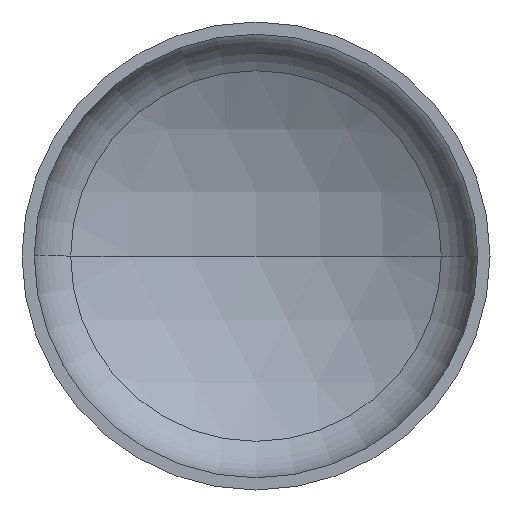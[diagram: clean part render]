
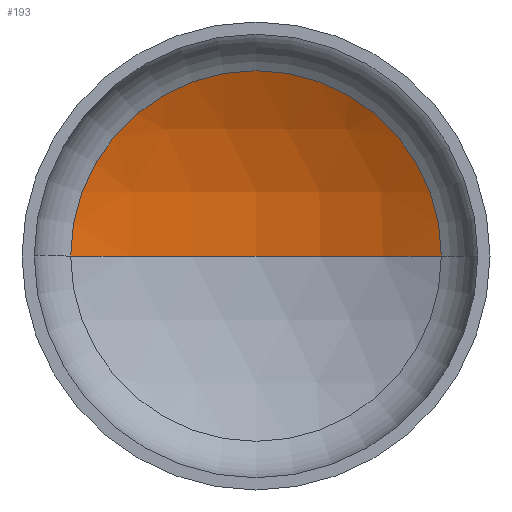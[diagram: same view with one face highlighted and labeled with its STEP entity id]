
A CAD part, front view. The second image highlights one B-rep face of the part: STEP entity #193.
In plain terms, the highlighted spherical face has radius 2880 mm.
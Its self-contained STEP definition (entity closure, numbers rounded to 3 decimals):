
#11 = EDGE_LOOP ( 'NONE', ( #115, #104, #76 ) ) ;
#21 = VERTEX_POINT ( 'NONE', #366 ) ;
#24 = DIRECTION ( 'NONE',  ( 0., -1., 0. ) ) ;
#25 = VERTEX_POINT ( 'NONE', #295 ) ;
#26 = DIRECTION ( 'NONE',  ( 0., 0., -1. ) ) ;
#28 = AXIS2_PLACEMENT_3D ( 'NONE', #93, #185, #73 ) ;
#29 = CARTESIAN_POINT ( 'NONE',  ( 0., -1920.105, 0. ) ) ;
#45 = VERTEX_POINT ( 'NONE', #237 ) ;
#56 = SPHERICAL_SURFACE ( 'NONE', #28, 2880. ) ;
#67 = AXIS2_PLACEMENT_3D ( 'NONE', #371, #387, #245 ) ;
#73 = DIRECTION ( 'NONE',  ( -1., 0., 0. ) ) ;
#74 = AXIS2_PLACEMENT_3D ( 'NONE', #29, #26, #319 ) ;
#76 = ORIENTED_EDGE ( 'NONE', *, *, #157, .T. ) ;
#81 = AXIS2_PLACEMENT_3D ( 'NONE', #324, #24, #153 ) ;
#93 = CARTESIAN_POINT ( 'NONE',  ( 0., -1920.105, 0. ) ) ;
#104 = ORIENTED_EDGE ( 'NONE', *, *, #158, .T. ) ;
#110 = CIRCLE ( 'NONE', #74, 2880. ) ;
#115 = ORIENTED_EDGE ( 'NONE', *, *, #160, .F. ) ;
#153 = DIRECTION ( 'NONE',  ( 1., 0., 0. ) ) ;
#157 = EDGE_CURVE ( 'NONE', #45, #21, #266, .T. ) ;
#158 = EDGE_CURVE ( 'NONE', #25, #45, #110, .T. ) ;
#160 = EDGE_CURVE ( 'NONE', #25, #21, #385, .T. ) ;
#185 = DIRECTION ( 'NONE',  ( 0., 0., -1. ) ) ;
#193 = ADVANCED_FACE ( 'NONE', ( #253 ), #56, .F. ) ;
#237 = CARTESIAN_POINT ( 'NONE',  ( 1425.755, 582.219, 0. ) ) ;
#245 = DIRECTION ( 'NONE',  ( 1., 0., 0. ) ) ;
#253 = FACE_OUTER_BOUND ( 'NONE', #11, .T. ) ;
#266 = CIRCLE ( 'NONE', #81, 1425.755 ) ;
#295 = CARTESIAN_POINT ( 'NONE',  ( 0., 959.895, 0. ) ) ;
#319 = DIRECTION ( 'NONE',  ( -1., 0., 0. ) ) ;
#324 = CARTESIAN_POINT ( 'NONE',  ( 0., 582.219, 0. ) ) ;
#366 = CARTESIAN_POINT ( 'NONE',  ( -1425.755, 582.219, 0. ) ) ;
#371 = CARTESIAN_POINT ( 'NONE',  ( 0., -1920.105, 0. ) ) ;
#385 = CIRCLE ( 'NONE', #67, 2880. ) ;
#387 = DIRECTION ( 'NONE',  ( 0., 0., 1. ) ) ;
